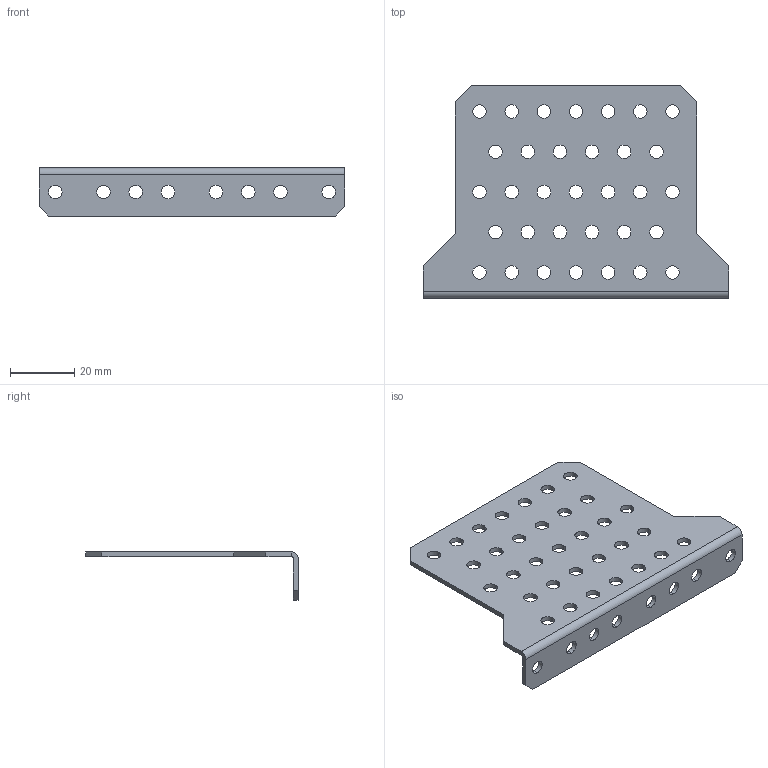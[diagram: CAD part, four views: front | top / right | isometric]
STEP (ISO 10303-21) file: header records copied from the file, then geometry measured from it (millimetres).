
FILE_DESCRIPTION(('CAx-IF Rec.Pracs.---Model Styling and Organization---1.2---2011-12-15','CAx-IF Rec.Pracs.---Geometric and Assembly Validation Properties---4.1---2014-06-16','CAx-IF Rec.Pracs.---PMI Polyline Presentation---2.0---2013-05-24'),'2;1');
FILE_NAME('R5M2W2M3BP.stp','2021-05-05T12:10:21+03:00',(''),(''),'STEP Interface 4.4 by CT CoreTechnologie','3D_Evolution4.4 by CT CoreTechnologie','');
FILE_SCHEMA(('AUTOMOTIVE_DESIGN { 1 0 10303 214 1 1 1 1 }'));
Length unit declared in the file: millimetre
Products named in the file (2): R5M2W2M3BP; RB.1200.00.00.0_-00
Assembly tree (1 placements, depth 2):
  R5M2W2M3BP
    RB.1200.00.00.0_-00
Bounding box: 95 x 66 x 15 mm (x, y, z)
Surface area: 13052.4 mm2 (no closed solid volume)
Topology: 0 solids, 1 shells, 102 faces, 296 edges, 196 vertices
Faces by surface type: cylinder 84, plane 18
Entity records: 3693 total; most frequent: DIRECTION 672, CARTESIAN_POINT 596, ORIENTED_EDGE 592, EDGE_CURVE 296, AXIS2_PLACEMENT_3D 272, VERTEX_POINT 196, EDGE_LOOP 184, CIRCLE 168
